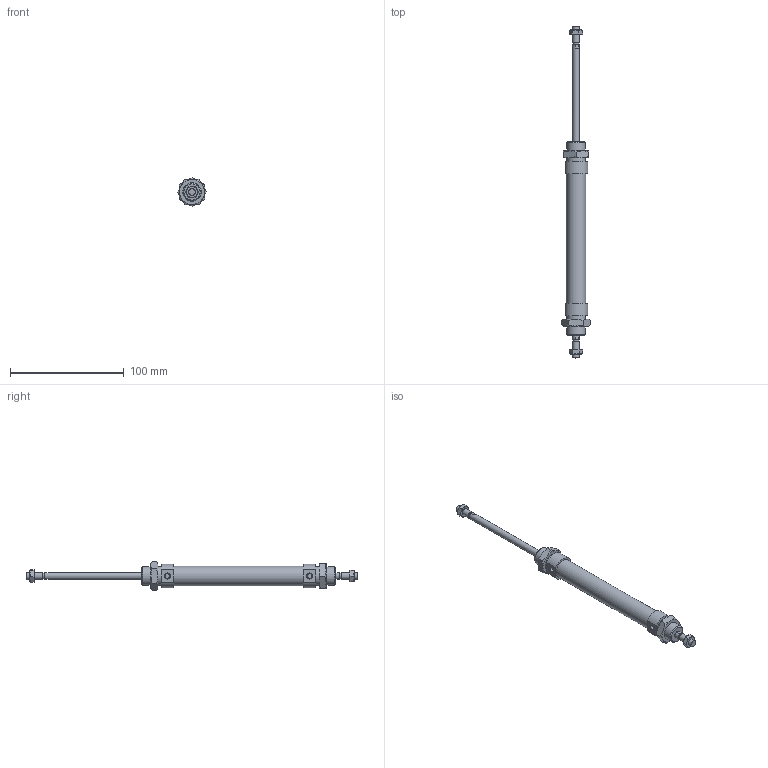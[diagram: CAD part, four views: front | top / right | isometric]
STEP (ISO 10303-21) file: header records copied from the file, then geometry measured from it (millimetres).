
FILE_DESCRIPTION((''),'2;1');
FILE_NAME('I:\Area Tecnica\Disegni\VARIE-3D\Componenti\1280\1282_##_####_#\1282_16_0080.iam.stp','2009-06-03T15:24:41',(''),(''),'Autodesk Inventor 2010','Autodesk Inventor 2010','');
FILE_SCHEMA(('AUTOMOTIVE_DESIGN { 1 0 10303 214 1 1 1 1 }'));
Length unit declared in the file: millimetre
Products named in the file (5): 1282_16_0080; C1282_16_80; S1282_16_80; 1200_16_05; 1200_16_06
Assembly tree (6 placements, depth 2):
  1282_16_0080
    C1282_16_80
    S1282_16_80
    1200_16_05  x2
    1200_16_06  x2
Bounding box: 25.4 x 292 x 25.4 mm (x, y, z)
Volume: 47381.8 mm3; surface area: 21937.4 mm2
Topology: 6 solids, 6 shells, 135 faces, 283 edges, 168 vertices
Faces by surface type: plane 56, cone 52, bspline 16, cylinder 11
Full cylindrical faces by diameter (mm): 5 x2, 6 x4, 16 x2, 17.2 x1
Entity records: 2543 total; most frequent: CARTESIAN_POINT 619, DIRECTION 358, ORIENTED_EDGE 316, AXIS2_PLACEMENT_3D 159, EDGE_CURVE 158, EDGE_LOOP 124, VERTEX_POINT 106, STYLED_ITEM 93
